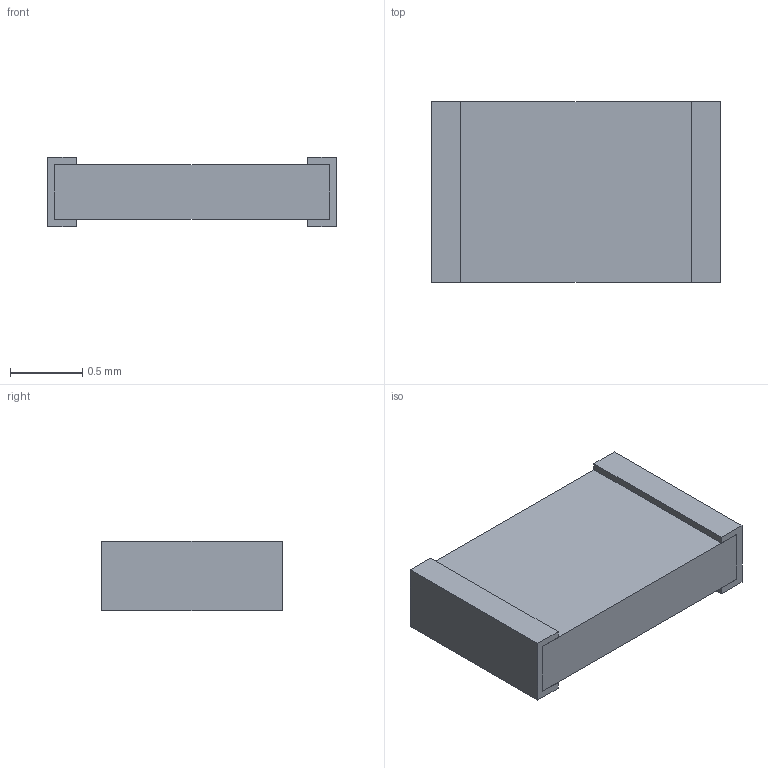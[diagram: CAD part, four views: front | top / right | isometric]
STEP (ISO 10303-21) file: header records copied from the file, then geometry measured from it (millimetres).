
FILE_DESCRIPTION(('STEP AP203'), '1');
FILE_NAME('0805', '', ('UNSPECIFIED'), ('UNSPECIFIED'), 'ASCON STEP Converter 1.6', 'ASCON Math Kernel', '');
FILE_SCHEMA(('CONFIG_CONTROL_DESIGN'));
Length unit declared in the file: millimetre
Bounding box: 2 x 1.25 x 0.48 mm (x, y, z)
Volume: 1 mm3; surface area: 11.4 mm2
Topology: 3 solids, 3 shells, 26 faces, 60 edges, 40 vertices
Faces by surface type: plane 26
Entity records: 988 total; most frequent: CARTESIAN_POINT 127, ORIENTED_EDGE 120, DIRECTION 114, EDGE_CURVE 60, LINE 60, VECTOR 60, VERTEX_POINT 40, COLOUR_RGB 29
